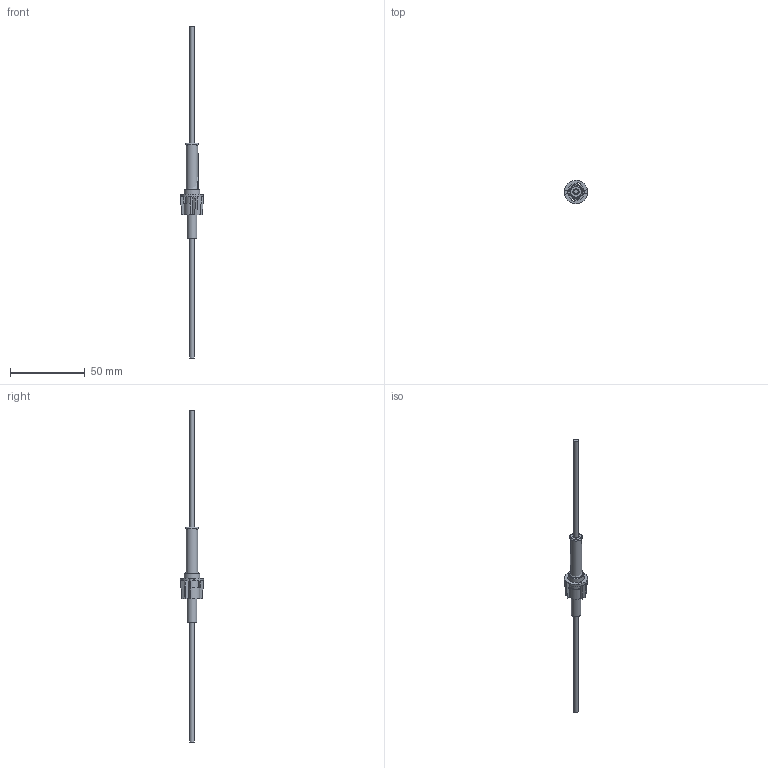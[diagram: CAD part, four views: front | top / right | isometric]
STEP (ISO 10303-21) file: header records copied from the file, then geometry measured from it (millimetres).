
FILE_DESCRIPTION(/* description */ (''),/* implementation_level */ '2;1');
FILE_NAME(/* name */ 'C:\Users\Hani\Desktop\work\LPA-21\LPA-21.stp',/* time_stamp */ '2021-07-23T10:53:57-07:00',/* author */ ('Hani'),/* organization */ (''),/* preprocessor_version */ 'ST-DEVELOPER v17',/* originating_system */ 'Autodesk Inventor 2019',/* authorisation */ '');
FILE_SCHEMA (('AUTOMOTIVE_DESIGN { 1 0 10303 214 3 1 1 }'));
Length unit declared in the file: inch
Products named in the file (5): LAP-01 Assyembly; LPA-01; LPA-01-Top; Spring; wire
Assembly tree (5 placements, depth 2):
  LAP-01 Assyembly
    LPA-01
    LPA-01-Top
    Spring
    wire  x2
Bounding box: 15.46 x 15.44 x 221.38 mm (x, y, z)
Volume: 3529.1 mm3; surface area: 6756.8 mm2
Topology: 8 solids, 8 shells, 230 faces, 639 edges, 424 vertices
Faces by surface type: plane 115, bspline 73, cylinder 35, cone 6, torus 1
Full cylindrical faces by diameter (mm): 2.997 x2, 3.81 x1, 4.064 x1, 6.35 x2, 7.112 x1, 7.468 x1, 8.636 x3, 10.592 x1
Entity records: 16631 total; most frequent: CARTESIAN_POINT 10765, ORIENTED_EDGE 1272, DIRECTION 970, EDGE_CURVE 636, VERTEX_POINT 422, AXIS2_PLACEMENT_3D 327, LINE 316, VECTOR 316
